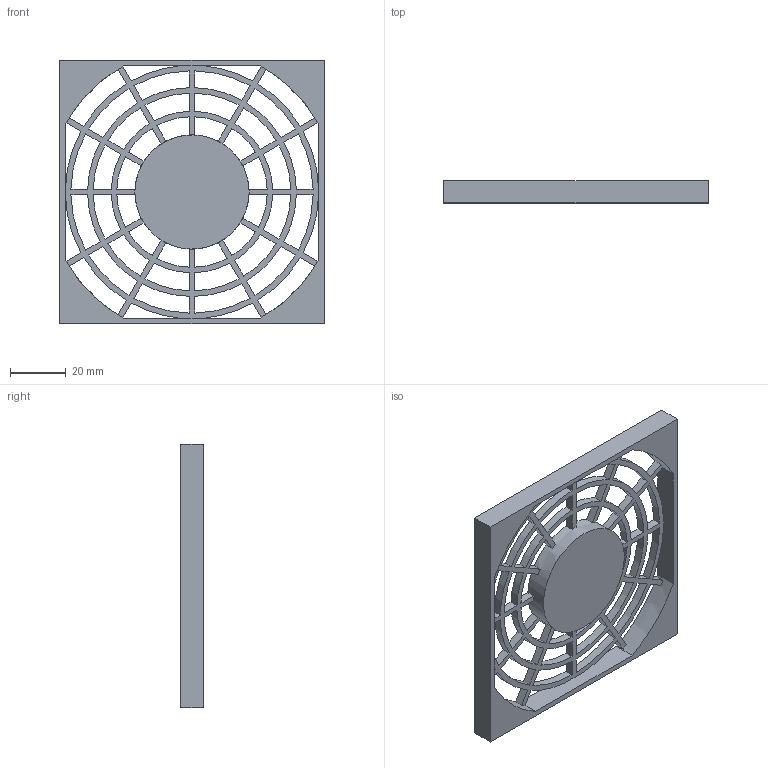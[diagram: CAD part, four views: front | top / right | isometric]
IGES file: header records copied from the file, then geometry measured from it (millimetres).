
Start section:  PTC IGES file: j4-du45-55k4-fancover_1.igs
Global section: file name: j4-du45-55k4-fancover_1.igs; native system: Creo Parametric by Parametric Technology Corporation; preprocessor: 2014310; author: JR20012; organization: Unknown; date: 20160927.133802; units: millimetre
Bounding box: 95 x 8 x 94.5 mm (x, y, z)
Volume: 27926.3 mm3; surface area: 21065.8 mm2
Topology: 1 solids, 1 shells, 182 faces, 606 edges, 404 vertices
Faces by surface type: bspline 182
